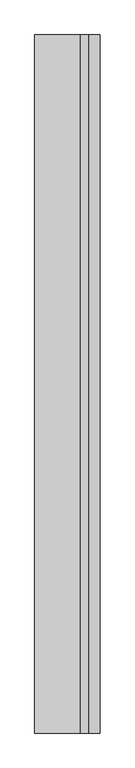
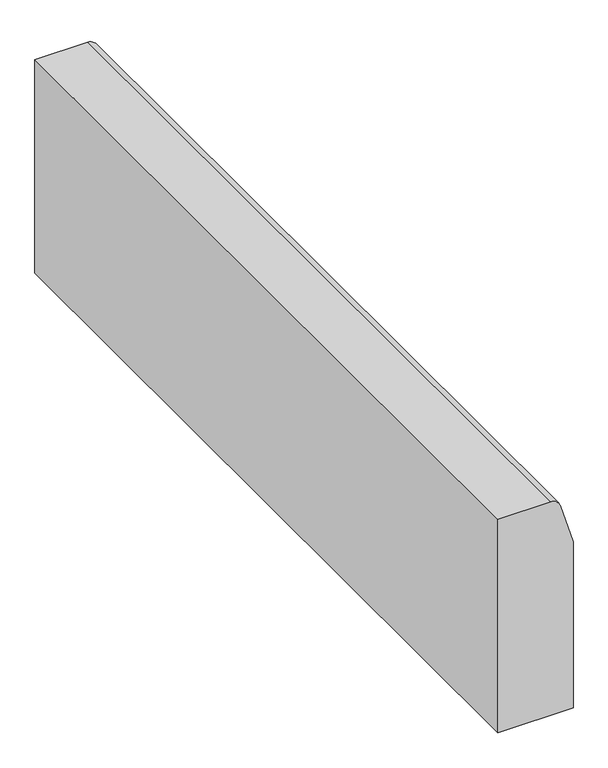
"""IFC4 building model written with IfcOpenShell, lengths in millimetres: railing geometry, BORDILLO BARRERA RECTA_MDSA-U10-4580_TITAN_80x45x15."""

from ifc_helpers import new_model, si_unit, point, frame, frame_2d, origin, place, context, project, spatial, polyline, circle_curve, trimmed, segment, composite_curve, outline, extrude, source, transform, mapped, element, save


def railing_46bd7357(model_context):
    return source(origin(), model_context, "Body", "SweptSolid", [
        extrude(outline(composite_curve([segment(polyline([(450.0, -843.8343252), (0.0, -843.8343252), (0.0, -693.8343252), (350.0, -693.8343252), (435.7469577, -719.5584125)]), True, "CONTINUOUS"), segment(trimmed(circle_curve(frame_2d((430.0, -738.7149382)), 20.0), [point((435.7469577, -719.5584125))], [point((450.0, -738.7149382))], False, "CARTESIAN"), True, "CONTINUOUS"), segment(polyline([(450.0, -738.7149382), (450.0, -843.8343252)]), True, "CONTINUOUS")], self_intersect=False)), frame((0.0, 3538.5861748, 0.0), z_axis=(0.0, 1.0, 0.0), x_axis=(0.0, 0.0, 1.0)), (0.0, 0.0, 1.0), 1600.0),
    ])


if __name__ == "__main__":
    model = new_model("IFC4")
    model_context = context("Model", 3, world=origin())
    ifc_project = project(units=[si_unit("LENGTHUNIT", "METRE", prefix="MILLI")], contexts=[model_context])
    site = spatial("IfcSite", under=ifc_project)
    building = spatial("IfcBuilding", under=site)
    placement = place(None, origin())
    railing_shape = railing_46bd7357(model_context)
    element("IfcRailing", 1, ObjectType="BORDILLO BARRERA RECTA_MDSA-U10-4580_TITAN_80x45x15", at=placement, inside=building, context=model_context, shape_type="MappedRepresentation", body=[
        mapped(railing_shape, transform((0.0, 0.0, 0.0), x_axis=(1.0, 0.0, 0.0), y_axis=(0.0, 1.0, 0.0), z_axis=(0.0, 0.0, 1.0))),
    ])
    save(model, "model.ifc")
